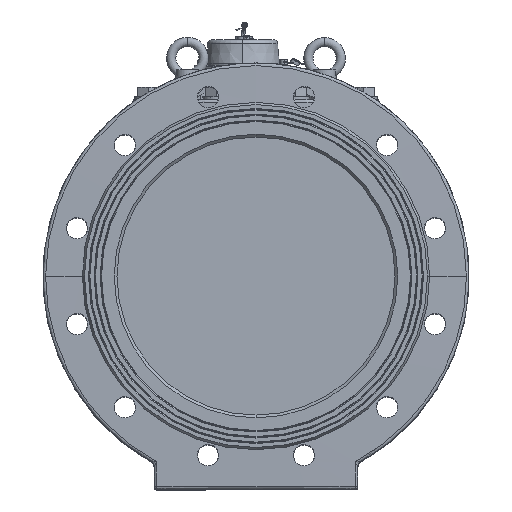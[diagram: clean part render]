
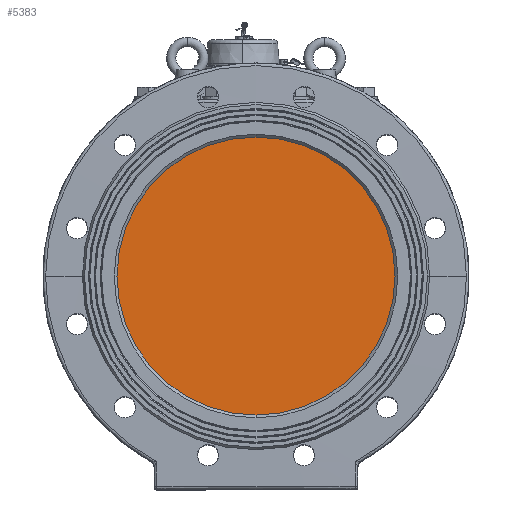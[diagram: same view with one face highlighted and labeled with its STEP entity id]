
A CAD part, top view. The second image highlights one B-rep face of the part: STEP entity #5383.
In plain terms, the highlighted planar face has unit normal (0, 0, 1).
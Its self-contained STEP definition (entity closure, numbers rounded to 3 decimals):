
#5383 = ADVANCED_FACE ( 'NONE', ( #90726 ), #132238, .T. ) ;
#7172 = AXIS2_PLACEMENT_3D ( 'NONE', #107407, #75337, #45402 ) ;
#20196 = EDGE_LOOP ( 'NONE', ( #91453, #117437 ) ) ;
#36937 = AXIS2_PLACEMENT_3D ( 'NONE', #117483, #77973, #39158 ) ;
#39158 = DIRECTION ( 'NONE',  ( 0., -1., 0. ) ) ;
#45402 = DIRECTION ( 'NONE',  ( 0., -1., 0. ) ) ;
#49222 = DIRECTION ( 'NONE',  ( 0., 0., 1. ) ) ;
#50685 = EDGE_CURVE ( 'NONE', #81918, #82363, #73920, .T. ) ;
#50702 = CIRCLE ( 'NONE', #7172, 150. ) ;
#54205 = CARTESIAN_POINT ( 'NONE',  ( 0., -194., 215.2 ) ) ;
#66426 = EDGE_CURVE ( 'NONE', #82363, #81918, #50702, .T. ) ;
#73920 = CIRCLE ( 'NONE', #36937, 150. ) ;
#75337 = DIRECTION ( 'NONE',  ( 0., 0., 1. ) ) ;
#77973 = DIRECTION ( 'NONE',  ( 0., 0., 1. ) ) ;
#80515 = DIRECTION ( 'NONE',  ( 1., 0., 0. ) ) ;
#81861 = CARTESIAN_POINT ( 'NONE',  ( 0., -44., 215.2 ) ) ;
#81918 = VERTEX_POINT ( 'NONE', #128210 ) ;
#82363 = VERTEX_POINT ( 'NONE', #54205 ) ;
#90726 = FACE_OUTER_BOUND ( 'NONE', #20196, .T. ) ;
#91453 = ORIENTED_EDGE ( 'NONE', *, *, #66426, .T. ) ;
#107407 = CARTESIAN_POINT ( 'NONE',  ( 0., -44., 215.2 ) ) ;
#117437 = ORIENTED_EDGE ( 'NONE', *, *, #50685, .T. ) ;
#117483 = CARTESIAN_POINT ( 'NONE',  ( 0., -44., 215.2 ) ) ;
#128210 = CARTESIAN_POINT ( 'NONE',  ( 0., 106., 215.2 ) ) ;
#128690 = AXIS2_PLACEMENT_3D ( 'NONE', #81861, #49222, #80515 ) ;
#132238 = PLANE ( 'NONE',  #128690 ) ;
